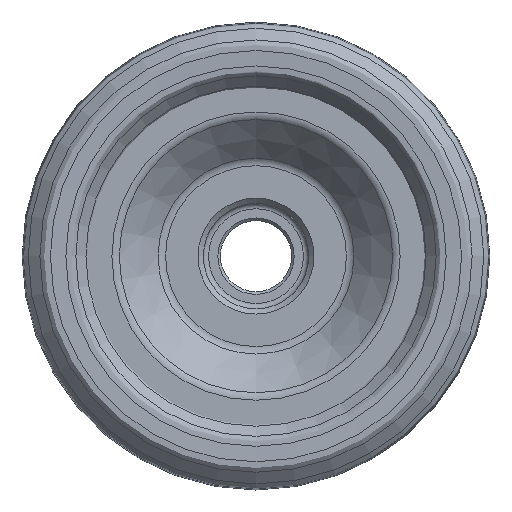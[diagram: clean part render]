
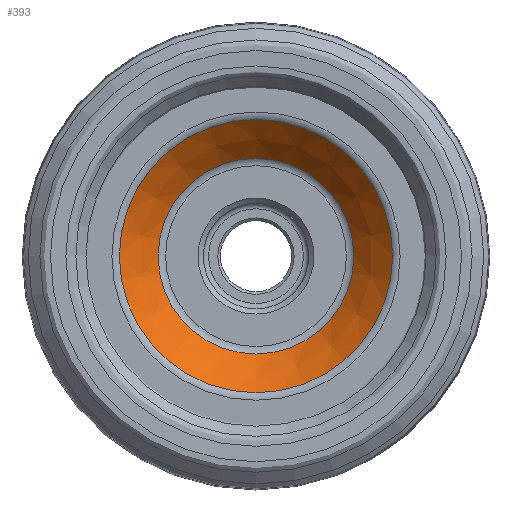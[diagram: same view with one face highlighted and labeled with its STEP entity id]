
A CAD part, left-side view. The second image highlights one B-rep face of the part: STEP entity #393.
In plain terms, the highlighted conical face has half-angle 45 degrees and reference radius 26.535 mm.
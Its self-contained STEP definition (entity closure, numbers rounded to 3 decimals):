
#250=CONICAL_SURFACE('',#1244,26.535,45.);
#393=ADVANCED_FACE('',(#494,#495),#250,.F.);
#494=FACE_BOUND('',#600,.T.);
#495=FACE_BOUND('',#601,.T.);
#600=EDGE_LOOP('',(#749));
#601=EDGE_LOOP('',(#750));
#749=ORIENTED_EDGE('',*,*,#1063,.T.);
#750=ORIENTED_EDGE('',*,*,#1064,.T.);
#969=VERTEX_POINT('',#1806);
#970=VERTEX_POINT('',#1808);
#1063=EDGE_CURVE('',#969,#969,#1161,.T.);
#1064=EDGE_CURVE('',#970,#970,#1162,.T.);
#1161=CIRCLE('',#1242,18.586);
#1162=CIRCLE('',#1243,25.949);
#1242=AXIS2_PLACEMENT_3D('',#1805,#1424,#1425);
#1243=AXIS2_PLACEMENT_3D('',#1807,#1426,#1427);
#1244=AXIS2_PLACEMENT_3D('',#1809,#1428,#1429);
#1424=DIRECTION('',(1.,0.,0.));
#1425=DIRECTION('',(0.,0.,1.));
#1426=DIRECTION('',(-1.,0.,0.));
#1427=DIRECTION('',(0.,0.,-1.));
#1428=DIRECTION('',(-1.,0.,0.));
#1429=DIRECTION('',(0.,0.,-1.));
#1805=CARTESIAN_POINT('',(11.414,0.,0.));
#1806=CARTESIAN_POINT('',(11.414,0.,18.586));
#1807=CARTESIAN_POINT('',(4.051,0.,0.));
#1808=CARTESIAN_POINT('',(4.051,0.,-25.949));
#1809=CARTESIAN_POINT('',(3.465,0.,0.));
